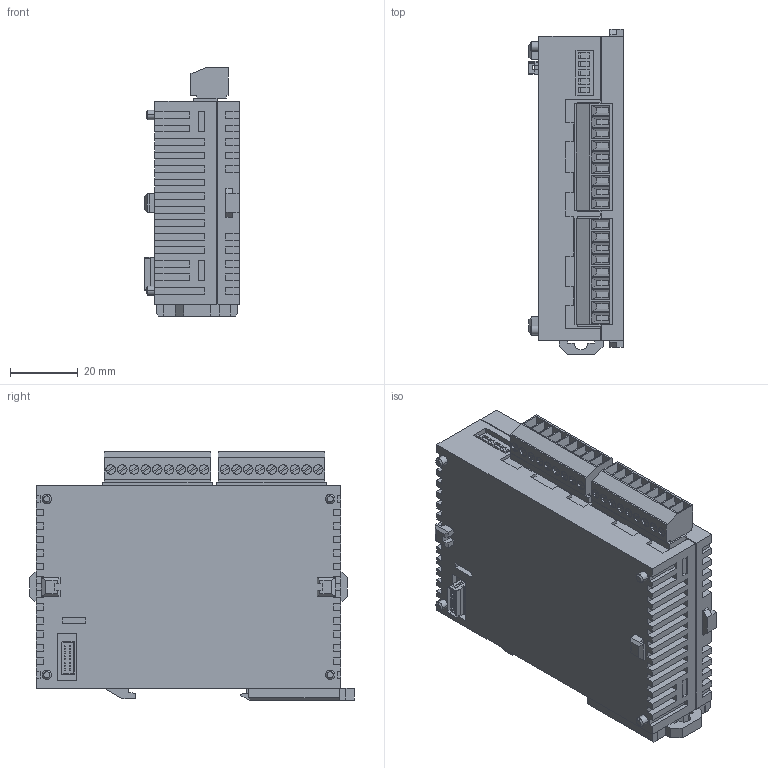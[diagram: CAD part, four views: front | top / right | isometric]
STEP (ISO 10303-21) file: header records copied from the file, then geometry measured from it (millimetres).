
FILE_DESCRIPTION (( 'STEP AP214' ), '1' );
FILE_NAME ('afp0421.stp', '2008-08-28T04:35:50', ( '' ), ( 'PanasonicElectricWorks' ), '', '', '' );
FILE_SCHEMA (( 'AUTOMOTIVE_DESIGN' ));
Length unit declared in the file: millimetre
Products named in the file (1): afp0421
Bounding box: 28 x 96.05 x 73.45 mm (x, y, z)
Volume: 139744.9 mm3; surface area: 26194.4 mm2
Topology: 1 solids, 1 shells, 927 faces, 2493 edges, 1642 vertices
Faces by surface type: plane 834, cylinder 69, bspline 16, cone 8
Entity records: 38965 total; most frequent: CARTESIAN_POINT 5303, ORIENTED_EDGE 4986, DIRECTION 4543, EDGE_CURVE 2493, VECTOR 2267, LINE 2267, VERTEX_POINT 1642, AXIS2_PLACEMENT_3D 1138
